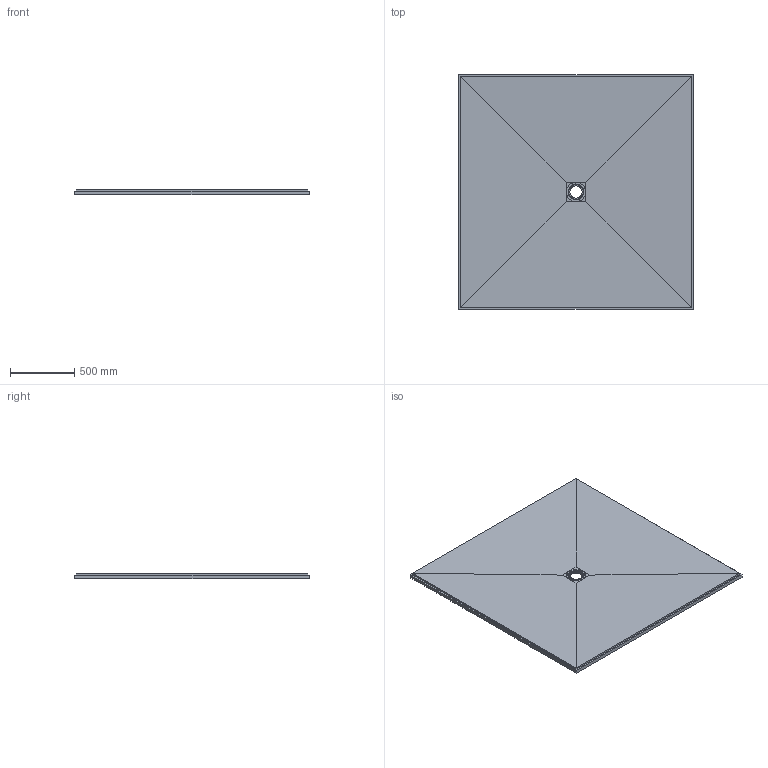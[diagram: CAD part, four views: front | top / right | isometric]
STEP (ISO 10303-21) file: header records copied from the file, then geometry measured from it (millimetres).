
FILE_DESCRIPTION(/* description */ ('Fertigteil'),/* implementation_level */ '2;1');
FILE_NAME(/* name */ 'C:\Users\fuser-vault-job\AppData\Local\Temp\MuM_3otlfom0.xdw\D-000001182.iam_.step',/* time_stamp */ '2022-07-14T10:21:56+02:00',/* author */ ('ds'),/* organization */ (''),/* preprocessor_version */ 'ST-DEVELOPER v18.1',/* originating_system */ 'Autodesk Inventor 2020',/* authorisation */ '');
FILE_SCHEMA (('AUTOMOTIVE_DESIGN { 1 0 10303 214 3 1 1 }'));
Products named in the file (3): 073740061; 073740061_1; DD0000003
Assembly tree (2 placements, depth 2):
  073740061
    073740061_1
    DD0000003
Bounding box: 1828.8 x 1828.8 x 40 mm (x, y, z)
Volume: 111654669.4 mm3; surface area: 7006150.9 mm2
Topology: 2 solids, 2 shells, 743 faces, 2189 edges, 1474 vertices
Faces by surface type: bspline 372, torus 115, cone 78, cylinder 76, plane 68, sphere 34
Full cylindrical faces by diameter (mm): 6 x3, 151 x1
Entity records: 63140 total; most frequent: CARTESIAN_POINT 44892, ORIENTED_EDGE 4322, DIRECTION 3297, EDGE_CURVE 2161, VERTEX_POINT 1456, AXIS2_PLACEMENT_3D 1338, CIRCLE 812, EDGE_LOOP 803
